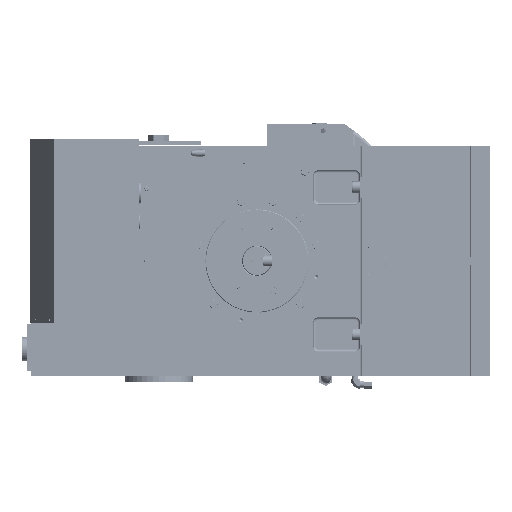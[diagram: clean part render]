
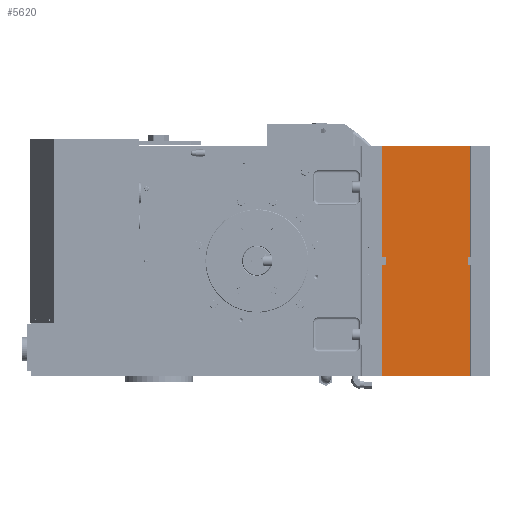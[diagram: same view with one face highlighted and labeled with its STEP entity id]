
A CAD part, left-side view. The second image highlights one B-rep face of the part: STEP entity #5620.
In plain terms, the highlighted planar face has unit normal (-1, 0, 0).
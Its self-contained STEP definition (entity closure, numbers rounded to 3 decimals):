
#299 = CARTESIAN_POINT ( 'NONE',  ( -740., -430., -9. ) ) ;
#1317 = PLANE ( 'NONE',  #67263 ) ;
#2403 = CARTESIAN_POINT ( 'NONE',  ( -740., -263., 9. ) ) ;
#2572 = VERTEX_POINT ( 'NONE', #9022 ) ;
#2911 = LINE ( 'NONE', #35367, #82879 ) ;
#3179 = EDGE_CURVE ( 'NONE', #57606, #6660, #54085, .T. ) ;
#3631 = EDGE_CURVE ( 'NONE', #31802, #19405, #23693, .T. ) ;
#3940 = ORIENTED_EDGE ( 'NONE', *, *, #3179, .F. ) ;
#4485 = ORIENTED_EDGE ( 'NONE', *, *, #62035, .T. ) ;
#5078 = ORIENTED_EDGE ( 'NONE', *, *, #57516, .T. ) ;
#5092 = EDGE_LOOP ( 'NONE', ( #6997, #54534, #3940, #5078, #57848, #65320, #13695, #50687, #70248, #4485, #55208, #74689 ) ) ;
#5620 = ADVANCED_FACE ( 'NONE', ( #20418 ), #1317, .F. ) ;
#6660 = VERTEX_POINT ( 'NONE', #8512 ) ;
#6997 = ORIENTED_EDGE ( 'NONE', *, *, #43858, .T. ) ;
#7213 = LINE ( 'NONE', #67625, #44400 ) ;
#7710 = EDGE_CURVE ( 'NONE', #47991, #14838, #7213, .T. ) ;
#7843 = DIRECTION ( 'NONE',  ( 0., 0., -1. ) ) ;
#8419 = LINE ( 'NONE', #28817, #30615 ) ;
#8512 = CARTESIAN_POINT ( 'NONE',  ( -740., -430., -9. ) ) ;
#9022 = CARTESIAN_POINT ( 'NONE',  ( -740., -435., -235. ) ) ;
#13695 = ORIENTED_EDGE ( 'NONE', *, *, #24275, .F. ) ;
#13753 = DIRECTION ( 'NONE',  ( 0., -1., 0. ) ) ;
#14182 = CARTESIAN_POINT ( 'NONE',  ( -740., -255., -235. ) ) ;
#14838 = VERTEX_POINT ( 'NONE', #57453 ) ;
#15698 = DIRECTION ( 'NONE',  ( 0., -1., 0. ) ) ;
#17394 = CARTESIAN_POINT ( 'NONE',  ( -740., -255., 235. ) ) ;
#17910 = DIRECTION ( 'NONE',  ( 0., 0., 1. ) ) ;
#19405 = VERTEX_POINT ( 'NONE', #87259 ) ;
#20188 = EDGE_CURVE ( 'NONE', #58720, #77352, #36165, .T. ) ;
#20257 = CARTESIAN_POINT ( 'NONE',  ( -740., -255., -235. ) ) ;
#20418 = FACE_OUTER_BOUND ( 'NONE', #5092, .T. ) ;
#21033 = VECTOR ( 'NONE', #30325, 1000. ) ;
#21394 = VERTEX_POINT ( 'NONE', #28031 ) ;
#22387 = CARTESIAN_POINT ( 'NONE',  ( -740., -263., 9. ) ) ;
#23693 = LINE ( 'NONE', #44119, #26130 ) ;
#23902 = VERTEX_POINT ( 'NONE', #70797 ) ;
#24076 = CARTESIAN_POINT ( 'NONE',  ( -740., -263., 9. ) ) ;
#24275 = EDGE_CURVE ( 'NONE', #23902, #31802, #37419, .T. ) ;
#26130 = VECTOR ( 'NONE', #15698, 1000. ) ;
#26662 = DIRECTION ( 'NONE',  ( 0., -1., 0. ) ) ;
#28031 = CARTESIAN_POINT ( 'NONE',  ( -740., -435., -9. ) ) ;
#28817 = CARTESIAN_POINT ( 'NONE',  ( -740., -435., 235. ) ) ;
#29099 = VECTOR ( 'NONE', #66055, 1000. ) ;
#29475 = LINE ( 'NONE', #22387, #51176 ) ;
#30325 = DIRECTION ( 'NONE',  ( 0., -1., 0. ) ) ;
#30438 = CARTESIAN_POINT ( 'NONE',  ( -740., -263., -9. ) ) ;
#30615 = VECTOR ( 'NONE', #32346, 1000. ) ;
#31802 = VERTEX_POINT ( 'NONE', #56697 ) ;
#32346 = DIRECTION ( 'NONE',  ( 0., 0., 1. ) ) ;
#33092 = VECTOR ( 'NONE', #17910, 1000. ) ;
#33609 = LINE ( 'NONE', #87829, #49343 ) ;
#35367 = CARTESIAN_POINT ( 'NONE',  ( -740., -263., -9. ) ) ;
#36165 = LINE ( 'NONE', #2403, #33092 ) ;
#37419 = LINE ( 'NONE', #17394, #51264 ) ;
#42199 = EDGE_CURVE ( 'NONE', #43398, #19405, #73628, .T. ) ;
#42881 = DIRECTION ( 'NONE',  ( 0., 1., 0. ) ) ;
#43398 = VERTEX_POINT ( 'NONE', #75591 ) ;
#43858 = EDGE_CURVE ( 'NONE', #2572, #21394, #8419, .T. ) ;
#44119 = CARTESIAN_POINT ( 'NONE',  ( -740., -255., 235. ) ) ;
#44400 = VECTOR ( 'NONE', #82699, 1000. ) ;
#44533 = VECTOR ( 'NONE', #7843, 1000. ) ;
#47104 = CARTESIAN_POINT ( 'NONE',  ( -740., -255., 235. ) ) ;
#47991 = VERTEX_POINT ( 'NONE', #20257 ) ;
#49343 = VECTOR ( 'NONE', #54061, 1000. ) ;
#50687 = ORIENTED_EDGE ( 'NONE', *, *, #80473, .F. ) ;
#51176 = VECTOR ( 'NONE', #56613, 1000. ) ;
#51264 = VECTOR ( 'NONE', #64945, 1000. ) ;
#54061 = DIRECTION ( 'NONE',  ( 0., -1., 0. ) ) ;
#54085 = LINE ( 'NONE', #299, #44533 ) ;
#54534 = ORIENTED_EDGE ( 'NONE', *, *, #59207, .F. ) ;
#55208 = ORIENTED_EDGE ( 'NONE', *, *, #7710, .F. ) ;
#55519 = DIRECTION ( 'NONE',  ( 1., 0., 0. ) ) ;
#56613 = DIRECTION ( 'NONE',  ( 0., 1., 0. ) ) ;
#56697 = CARTESIAN_POINT ( 'NONE',  ( -740., -255., 235. ) ) ;
#57023 = CARTESIAN_POINT ( 'NONE',  ( -740., -430., -9. ) ) ;
#57453 = CARTESIAN_POINT ( 'NONE',  ( -740., -255., -9. ) ) ;
#57516 = EDGE_CURVE ( 'NONE', #57606, #43398, #33609, .T. ) ;
#57606 = VERTEX_POINT ( 'NONE', #65825 ) ;
#57848 = ORIENTED_EDGE ( 'NONE', *, *, #42199, .T. ) ;
#58720 = VERTEX_POINT ( 'NONE', #30438 ) ;
#59207 = EDGE_CURVE ( 'NONE', #6660, #21394, #62777, .T. ) ;
#62035 = EDGE_CURVE ( 'NONE', #58720, #14838, #2911, .T. ) ;
#62777 = LINE ( 'NONE', #57023, #21033 ) ;
#64115 = EDGE_CURVE ( 'NONE', #47991, #2572, #87543, .T. ) ;
#64945 = DIRECTION ( 'NONE',  ( 0., 0., 1. ) ) ;
#65320 = ORIENTED_EDGE ( 'NONE', *, *, #3631, .F. ) ;
#65825 = CARTESIAN_POINT ( 'NONE',  ( -740., -430., 9. ) ) ;
#66055 = DIRECTION ( 'NONE',  ( 0., 0., 1. ) ) ;
#66246 = VECTOR ( 'NONE', #26662, 1000. ) ;
#67263 = AXIS2_PLACEMENT_3D ( 'NONE', #47104, #55519, #13753 ) ;
#67625 = CARTESIAN_POINT ( 'NONE',  ( -740., -255., 235. ) ) ;
#70248 = ORIENTED_EDGE ( 'NONE', *, *, #20188, .F. ) ;
#70797 = CARTESIAN_POINT ( 'NONE',  ( -740., -255., 9. ) ) ;
#73628 = LINE ( 'NONE', #80281, #29099 ) ;
#74689 = ORIENTED_EDGE ( 'NONE', *, *, #64115, .T. ) ;
#75591 = CARTESIAN_POINT ( 'NONE',  ( -740., -435., 9. ) ) ;
#77352 = VERTEX_POINT ( 'NONE', #24076 ) ;
#80281 = CARTESIAN_POINT ( 'NONE',  ( -740., -435., 235. ) ) ;
#80473 = EDGE_CURVE ( 'NONE', #77352, #23902, #29475, .T. ) ;
#82699 = DIRECTION ( 'NONE',  ( 0., 0., 1. ) ) ;
#82879 = VECTOR ( 'NONE', #42881, 1000. ) ;
#87259 = CARTESIAN_POINT ( 'NONE',  ( -740., -435., 235. ) ) ;
#87543 = LINE ( 'NONE', #14182, #66246 ) ;
#87829 = CARTESIAN_POINT ( 'NONE',  ( -740., -430., 9. ) ) ;
